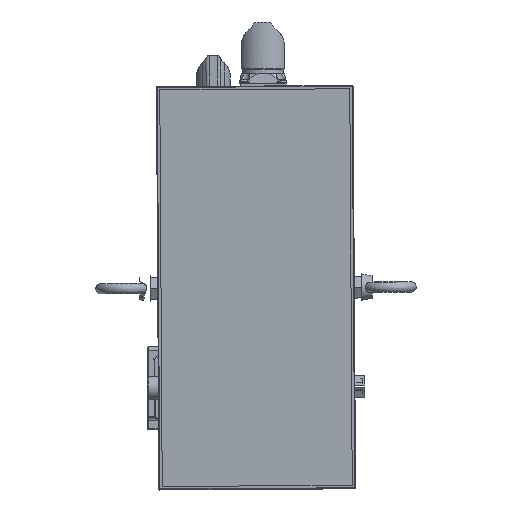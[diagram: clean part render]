
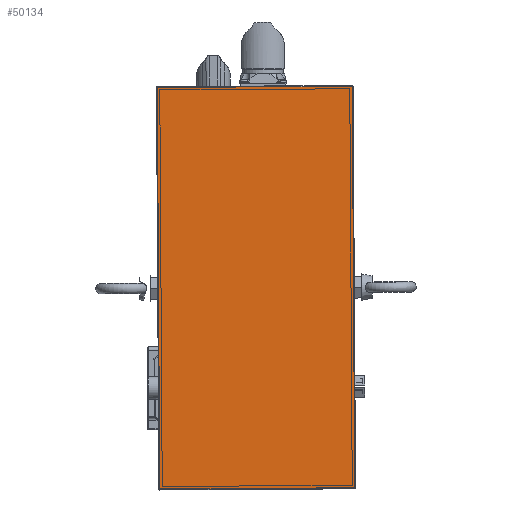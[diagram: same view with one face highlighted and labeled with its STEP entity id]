
A CAD part, top view. The second image highlights one B-rep face of the part: STEP entity #50134.
In plain terms, the highlighted planar face has unit normal (0, 0, 1).
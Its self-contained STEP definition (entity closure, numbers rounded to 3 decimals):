
#2423=PLANE('',#54617);
#7380=FACE_OUTER_BOUND('',#10364,.T.);
#10364=EDGE_LOOP('',(#42622,#42623,#42624,#42625));
#16490=LINE('',#93048,#20149);
#16491=LINE('',#93050,#20150);
#16492=LINE('',#93052,#20151);
#16493=LINE('',#93053,#20152);
#20149=VECTOR('',#65877,10.);
#20150=VECTOR('',#65878,10.);
#20151=VECTOR('',#65879,10.);
#20152=VECTOR('',#65880,10.);
#24658=VERTEX_POINT('',#93046);
#24659=VERTEX_POINT('',#93047);
#24660=VERTEX_POINT('',#93049);
#24661=VERTEX_POINT('',#93051);
#30952=EDGE_CURVE('',#24658,#24659,#16490,.T.);
#30953=EDGE_CURVE('',#24660,#24658,#16491,.T.);
#30954=EDGE_CURVE('',#24661,#24660,#16492,.T.);
#30955=EDGE_CURVE('',#24659,#24661,#16493,.T.);
#42622=ORIENTED_EDGE('',*,*,#30952,.F.);
#42623=ORIENTED_EDGE('',*,*,#30953,.F.);
#42624=ORIENTED_EDGE('',*,*,#30954,.F.);
#42625=ORIENTED_EDGE('',*,*,#30955,.F.);
#50134=ADVANCED_FACE('',(#7380),#2423,.T.);
#54617=AXIS2_PLACEMENT_3D('',#93045,#65875,#65876);
#65875=DIRECTION('center_axis',(0.,0.,
1.));
#65876=DIRECTION('ref_axis',(0.006,-1.,0.));
#65877=DIRECTION('',(-0.006,1.,0.));
#65878=DIRECTION('',(-1.,-0.006,0.));
#65879=DIRECTION('',(0.006,-1.,0.));
#65880=DIRECTION('',(1.,0.006,0.));
#93045=CARTESIAN_POINT('Origin',(57.867,-59.646,573.));
#93046=CARTESIAN_POINT('',(-58.622,-61.861,573.));
#93047=CARTESIAN_POINT('',(-60.112,181.135,573.));
#93048=CARTESIAN_POINT('',(-58.631,-60.361,573.));
#93049=CARTESIAN_POINT('',(59.376,-61.137,573.));
#93050=CARTESIAN_POINT('',(29.127,-61.322,573.));
#93051=CARTESIAN_POINT('',(57.886,181.858,573.));
#93052=CARTESIAN_POINT('',(59.367,-59.637,573.));
#93053=CARTESIAN_POINT('',(27.636,181.673,573.));
